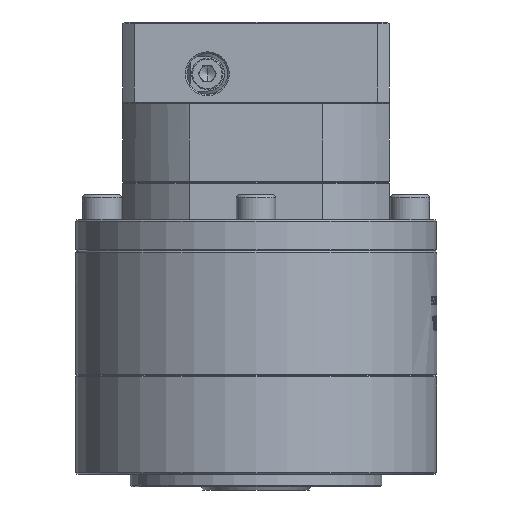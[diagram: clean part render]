
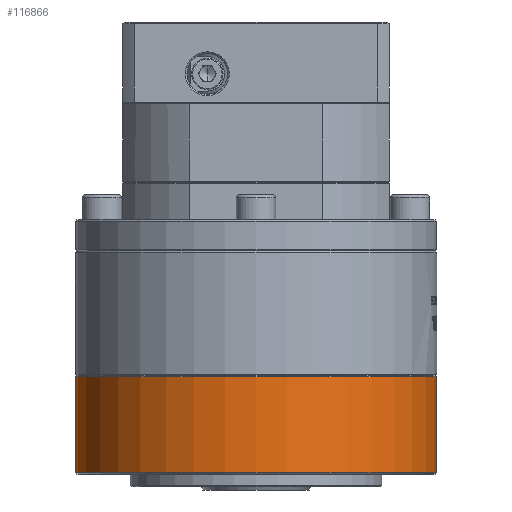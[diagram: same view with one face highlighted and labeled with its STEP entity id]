
A CAD part, left-side view. The second image highlights one B-rep face of the part: STEP entity #116866.
In plain terms, the highlighted cylindrical face has radius 57.5 mm (diameter 115 mm), a partial arc.
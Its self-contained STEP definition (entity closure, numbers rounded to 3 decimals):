
#713 = LINE ( 'NONE', #114556, #96066 ) ;
#1610 = ORIENTED_EDGE ( 'NONE', *, *, #85282, .F. ) ;
#13927 = ORIENTED_EDGE ( 'NONE', *, *, #81043, .F. ) ;
#17248 = DIRECTION ( 'NONE',  ( 0., -1., 0. ) ) ;
#17635 = CARTESIAN_POINT ( 'NONE',  ( 6.642, 18.258, -24.089 ) ) ;
#17984 = CARTESIAN_POINT ( 'NONE',  ( 6.642, 18.258, -11.589 ) ) ;
#18525 = AXIS2_PLACEMENT_3D ( 'NONE', #47772, #115010, #113858 ) ;
#22582 = DIRECTION ( 'NONE',  ( 0., 0., 1. ) ) ;
#22954 = CARTESIAN_POINT ( 'NONE',  ( 6.642, 75.758, -24.089 ) ) ;
#24664 = VECTOR ( 'NONE', #100454, 1000. ) ;
#26791 = DIRECTION ( 'NONE',  ( 0., -1., 0. ) ) ;
#32137 = AXIS2_PLACEMENT_3D ( 'NONE', #17635, #108762, #17248 ) ;
#36304 = LINE ( 'NONE', #92779, #24664 ) ;
#37024 = CIRCLE ( 'NONE', #18525, 57.5 ) ;
#41117 = VERTEX_POINT ( 'NONE', #94034 ) ;
#47669 = VERTEX_POINT ( 'NONE', #52114 ) ;
#47772 = CARTESIAN_POINT ( 'NONE',  ( 6.642, 18.258, 6.411 ) ) ;
#47877 = ORIENTED_EDGE ( 'NONE', *, *, #94140, .T. ) ;
#52114 = CARTESIAN_POINT ( 'NONE',  ( 6.642, -39.242, 6.411 ) ) ;
#62202 = EDGE_LOOP ( 'NONE', ( #1610, #108484, #47877, #13927 ) ) ;
#67647 = CIRCLE ( 'NONE', #32137, 57.5 ) ;
#81043 = EDGE_CURVE ( 'NONE', #93104, #47669, #37024, .T. ) ;
#83602 = AXIS2_PLACEMENT_3D ( 'NONE', #17984, #92241, #26791 ) ;
#85282 = EDGE_CURVE ( 'NONE', #93520, #93104, #36304, .T. ) ;
#89601 = EDGE_CURVE ( 'NONE', #93520, #41117, #67647, .T. ) ;
#89747 = FACE_OUTER_BOUND ( 'NONE', #62202, .T. ) ;
#92241 = DIRECTION ( 'NONE',  ( 0., 0., 1. ) ) ;
#92779 = CARTESIAN_POINT ( 'NONE',  ( 6.642, 75.758, -11.589 ) ) ;
#93104 = VERTEX_POINT ( 'NONE', #96579 ) ;
#93520 = VERTEX_POINT ( 'NONE', #22954 ) ;
#94034 = CARTESIAN_POINT ( 'NONE',  ( 6.642, -39.242, -24.089 ) ) ;
#94140 = EDGE_CURVE ( 'NONE', #41117, #47669, #713, .T. ) ;
#96066 = VECTOR ( 'NONE', #22582, 1000. ) ;
#96579 = CARTESIAN_POINT ( 'NONE',  ( 6.642, 75.758, 6.411 ) ) ;
#98460 = CYLINDRICAL_SURFACE ( 'NONE', #83602, 57.5 ) ;
#100454 = DIRECTION ( 'NONE',  ( 0., 0., 1. ) ) ;
#108484 = ORIENTED_EDGE ( 'NONE', *, *, #89601, .T. ) ;
#108762 = DIRECTION ( 'NONE',  ( 0., 0., 1. ) ) ;
#113858 = DIRECTION ( 'NONE',  ( 0., 1., 0. ) ) ;
#114556 = CARTESIAN_POINT ( 'NONE',  ( 6.642, -39.242, -11.589 ) ) ;
#115010 = DIRECTION ( 'NONE',  ( 0., 0., 1. ) ) ;
#116866 = ADVANCED_FACE ( 'NONE', ( #89747 ), #98460, .T. ) ;
